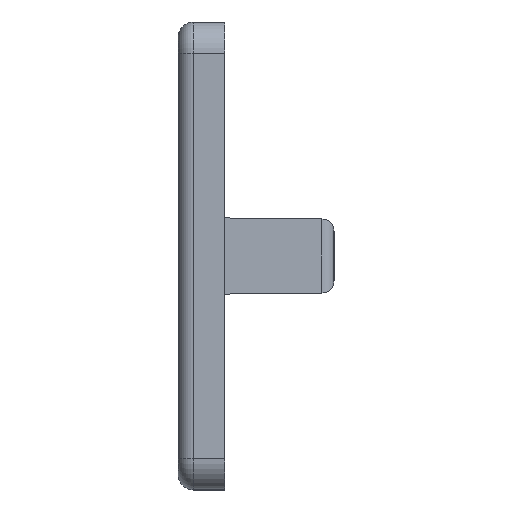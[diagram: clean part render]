
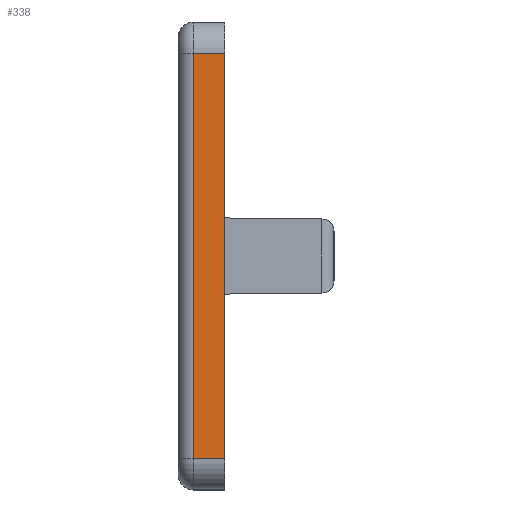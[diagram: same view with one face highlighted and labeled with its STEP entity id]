
A CAD part, left-side view. The second image highlights one B-rep face of the part: STEP entity #338.
In plain terms, the highlighted planar face has unit normal (-1, 0, 0).
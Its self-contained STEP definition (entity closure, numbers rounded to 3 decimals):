
#75 = VECTOR ( 'NONE', #101, 1000. ) ;
#101 = DIRECTION ( 'NONE',  ( 0., -1., 0. ) ) ;
#115 = CARTESIAN_POINT ( 'NONE',  ( -45., -1.5, -13. ) ) ;
#162 = VECTOR ( 'NONE', #1339, 1000. ) ;
#178 = VERTEX_POINT ( 'NONE', #497 ) ;
#231 = ORIENTED_EDGE ( 'NONE', *, *, #1266, .T. ) ;
#273 = ORIENTED_EDGE ( 'NONE', *, *, #933, .T. ) ;
#279 = DIRECTION ( 'NONE',  ( 0., -1., 0. ) ) ;
#338 = ADVANCED_FACE ( 'NONE', ( #821 ), #1053, .F. ) ;
#408 = VECTOR ( 'NONE', #279, 1000. ) ;
#417 = VERTEX_POINT ( 'NONE', #115 ) ;
#461 = LINE ( 'NONE', #1412, #75 ) ;
#497 = CARTESIAN_POINT ( 'NONE',  ( -45., -1.5, 13. ) ) ;
#562 = CARTESIAN_POINT ( 'NONE',  ( -45., 0.5, 13. ) ) ;
#573 = DIRECTION ( 'NONE',  ( 0., 0., -1. ) ) ;
#577 = DIRECTION ( 'NONE',  ( 0., 0., -1. ) ) ;
#652 = EDGE_CURVE ( 'NONE', #417, #178, #1439, .T. ) ;
#717 = EDGE_CURVE ( 'NONE', #1178, #178, #734, .T. ) ;
#728 = VERTEX_POINT ( 'NONE', #1364 ) ;
#734 = LINE ( 'NONE', #1126, #408 ) ;
#818 = CARTESIAN_POINT ( 'NONE',  ( -45., 1.5, 13. ) ) ;
#821 = FACE_OUTER_BOUND ( 'NONE', #999, .T. ) ;
#849 = ORIENTED_EDGE ( 'NONE', *, *, #717, .F. ) ;
#933 = EDGE_CURVE ( 'NONE', #728, #417, #461, .T. ) ;
#984 = CARTESIAN_POINT ( 'NONE',  ( -45., -1.5, 13. ) ) ;
#999 = EDGE_LOOP ( 'NONE', ( #849, #231, #273, #1157 ) ) ;
#1053 = PLANE ( 'NONE',  #1136 ) ;
#1126 = CARTESIAN_POINT ( 'NONE',  ( -45., 1.5, 13. ) ) ;
#1136 = AXIS2_PLACEMENT_3D ( 'NONE', #818, #1291, #577 ) ;
#1145 = VECTOR ( 'NONE', #573, 1000. ) ;
#1157 = ORIENTED_EDGE ( 'NONE', *, *, #652, .T. ) ;
#1172 = CARTESIAN_POINT ( 'NONE',  ( -45., 0.5, -13. ) ) ;
#1178 = VERTEX_POINT ( 'NONE', #562 ) ;
#1266 = EDGE_CURVE ( 'NONE', #1178, #728, #1454, .T. ) ;
#1291 = DIRECTION ( 'NONE',  ( 1., 0., 0. ) ) ;
#1339 = DIRECTION ( 'NONE',  ( 0., 0., 1. ) ) ;
#1364 = CARTESIAN_POINT ( 'NONE',  ( -45., 0.5, -13. ) ) ;
#1412 = CARTESIAN_POINT ( 'NONE',  ( -45., 1.5, -13. ) ) ;
#1439 = LINE ( 'NONE', #984, #162 ) ;
#1454 = LINE ( 'NONE', #1172, #1145 ) ;
